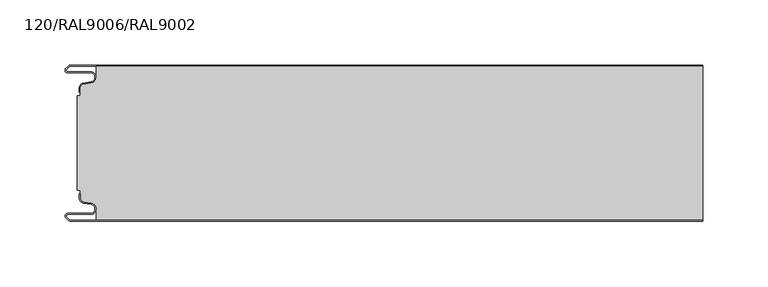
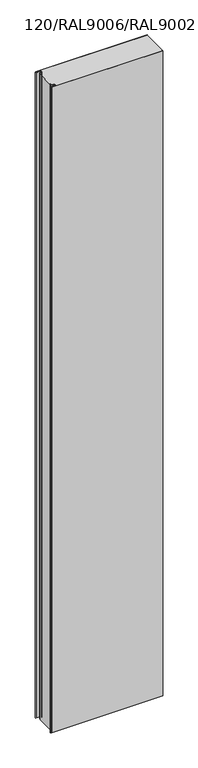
"""IFC4 building model written with IfcOpenShell, lengths in millimetres: plate geometry, TR_C_V_FTV_Panel_cut_GROOVE : 120/RAL9006/RAL9002."""

import ifcopenshell
import ifcopenshell.guid

model = None  # the IFC model being written
_history = None  # IfcOwnerHistory: only IFC2X3 demands one
_inside = {}  # id of a spatial element -> (the spatial element, [elements in it])
_under = {}  # id of a project, library or spatial element -> (it, [spatial elements below it])
_declared = {}  # id of a project -> (the project, [libraries it declares])
_typed = {}  # id of a type object -> (the type object, [elements of that type])
_made_of = {}  # id of a material, layer set ... -> (it, [elements and type objects made of it])


def new_model(schema):
    """Start an empty IFC model of exactly this schema.

    Asked for "IFC4X3", IfcOpenShell would pick the latest addendum, in which some entities
    have other attributes; the version numbers below select the first issue.
    IFC2X3 requires an IfcOwnerHistory on every rooted entity: one is made here for all.
    """
    global model, _history
    if schema == "IFC4X3":
        model = ifcopenshell.file(schema_version=(4, 3, 0, 0))
    else:
        model = ifcopenshell.file(schema=schema)
    _inside.clear()
    _under.clear()
    _declared.clear()
    _typed.clear()
    _made_of.clear()
    _history = None
    if model.schema == "IFC2X3":
        org = make("IfcOrganization", Name="unknown")
        user = make(
            "IfcPersonAndOrganization",
            ThePerson=make("IfcPerson", FamilyName="unknown"),
            TheOrganization=org,
        )
        app = make(
            "IfcApplication",
            ApplicationDeveloper=org,
            Version="unknown",
            ApplicationFullName="unknown",
            ApplicationIdentifier="unknown",
        )
        _history = make(
            "IfcOwnerHistory",
            OwningUser=user,
            OwningApplication=app,
            ChangeAction="ADDED",
            CreationDate=0,
        )
    return model


def make(cls, **values):
    """One entity of the class cls with the attributes given. An attribute that is None is left unset."""
    return model.create_entity(
        cls, **{name: value for name, value in values.items() if value is not None}
    )


def rooted(cls, **values):
    """An entity with a GlobalId (a new one), such as an element, a storey or a relation."""
    return make(cls, GlobalId=ifcopenshell.guid.new(), OwnerHistory=_history, **values)


def si_unit(unit_type, name, prefix=None):
    """IfcSIUnit, for example si_unit("LENGTHUNIT", "METRE", prefix="MILLI")."""
    return make("IfcSIUnit", UnitType=unit_type, Prefix=prefix, Name=name)


def assignment(units):
    """IfcUnitAssignment: the units of a project."""
    return None if units is None else make("IfcUnitAssignment", Units=units)


def point(xyz):
    """IfcCartesianPoint."""
    return None if xyz is None else make("IfcCartesianPoint", Coordinates=xyz)


def direction(xyz):
    """IfcDirection."""
    return None if xyz is None else make("IfcDirection", DirectionRatios=xyz)


def frame(location, z_axis=None, x_axis=None):
    """IfcAxis2Placement3D, a coordinate frame: its origin and axes. An axis left out is left unset."""
    return make(
        "IfcAxis2Placement3D",
        Location=point(location),
        Axis=direction(z_axis),
        RefDirection=direction(x_axis),
    )


def frame_2d(location, x_axis=None):
    """IfcAxis2Placement2D, a coordinate frame in the plane: its origin and x axis."""
    return make(
        "IfcAxis2Placement2D", Location=point(location), RefDirection=direction(x_axis)
    )


def origin():
    """The frame at (0, 0, 0) with its axes left unset."""
    return frame((0.0, 0.0, 0.0))


def origin_with_axes():
    """The frame at (0, 0, 0) with the z axis (0, 0, 1) and the x axis (1, 0, 0) written out."""
    return frame((0.0, 0.0, 0.0), z_axis=(0.0, 0.0, 1.0), x_axis=(1.0, 0.0, 0.0))


def place(relative_to, where):
    """IfcLocalPlacement: puts the frame where relative to a parent placement (None: the world)."""
    return make(
        "IfcLocalPlacement", PlacementRelTo=relative_to, RelativePlacement=where
    )


def context(
    kind, dimensions, precision=None, world=None, true_north=None, identifier=None
):
    """IfcGeometricRepresentationContext, for example the 3D "Model" context."""
    return make(
        "IfcGeometricRepresentationContext",
        ContextIdentifier=identifier,
        ContextType=kind,
        CoordinateSpaceDimension=dimensions,
        Precision=precision,
        WorldCoordinateSystem=world,
        TrueNorth=true_north,
    )


def project(units=None, contexts=None):
    """IfcProject with its units and contexts."""
    return rooted(
        "IfcProject",
        Name="project",
        RepresentationContexts=contexts,
        UnitsInContext=assignment(units),
    )


def spatial(cls, under=None, at=None, **own):
    """A site, building, storey or space (cls), placed at a placement, below another one or the project."""
    s = rooted(cls, ObjectPlacement=at, **own)
    if under is not None:
        _under.setdefault(under.id(), (under, []))[1].append(s)
    return s


def polyline(points):
    """IfcPolyline through the points."""
    return make("IfcPolyline", Points=[point(p) for p in points])


def circle_curve(where, radius):
    """IfcCircle in the frame where."""
    return make("IfcCircle", Position=where, Radius=radius)


def trimmed(basis, trim1, trim2, sense, master):
    """IfcTrimmedCurve: the piece of a basis curve between two trims."""
    return make(
        "IfcTrimmedCurve",
        BasisCurve=basis,
        Trim1=trim1,
        Trim2=trim2,
        SenseAgreement=sense,
        MasterRepresentation=master,
    )


def segment(curve, same_sense, transition):
    """IfcCompositeCurveSegment."""
    return make(
        "IfcCompositeCurveSegment",
        Transition=transition,
        SameSense=same_sense,
        ParentCurve=curve,
    )


def composite_curve(segments, self_intersect=None):
    """IfcCompositeCurve: segments joined end to end."""
    return make("IfcCompositeCurve", Segments=segments, SelfIntersect=self_intersect)


def outline(outer, holes=None, kind="AREA"):
    """IfcArbitraryClosedProfileDef: a profile drawn as a closed curve; with holes, ...WithVoids."""
    if holes is None:
        return make("IfcArbitraryClosedProfileDef", ProfileType=kind, OuterCurve=outer)
    return make(
        "IfcArbitraryProfileDefWithVoids",
        ProfileType=kind,
        OuterCurve=outer,
        InnerCurves=holes,
    )


def extrude(swept, where, along, depth):
    """IfcExtrudedAreaSolid: the profile swept, set in the frame where, extruded along a direction by depth."""
    return make(
        "IfcExtrudedAreaSolid",
        SweptArea=swept,
        Position=where,
        ExtrudedDirection=direction(along),
        Depth=depth,
    )


def shape(context_of_items, identifier, shape_type, items):
    """IfcShapeRepresentation: the items that make up one representation, for example the "Body"."""
    return make(
        "IfcShapeRepresentation",
        ContextOfItems=context_of_items,
        RepresentationIdentifier=identifier,
        RepresentationType=shape_type,
        Items=items,
    )


def source(mapping_origin, context_of_items, identifier, shape_type, items):
    """IfcRepresentationMap: a shape defined once, which mapped items show again and again."""
    return make(
        "IfcRepresentationMap",
        MappingOrigin=mapping_origin,
        MappedRepresentation=shape(context_of_items, identifier, shape_type, items),
    )


def transform(
    local_origin,
    x_axis=None,
    y_axis=None,
    z_axis=None,
    scale=None,
    scale2=None,
    scale3=None,
    uniform=True,
):
    """IfcCartesianTransformationOperator3D, or its non-uniform kind. x_axis, y_axis, z_axis: its Axis1, 2, 3."""
    if uniform:
        return make(
            "IfcCartesianTransformationOperator3D",
            Axis1=direction(x_axis),
            Axis2=direction(y_axis),
            LocalOrigin=point(local_origin),
            Scale=scale,
            Axis3=direction(z_axis),
        )
    return make(
        "IfcCartesianTransformationOperator3DnonUniform",
        Axis1=direction(x_axis),
        Axis2=direction(y_axis),
        LocalOrigin=point(local_origin),
        Scale=scale,
        Axis3=direction(z_axis),
        Scale2=scale2,
        Scale3=scale3,
    )


def mapped(mapping_source, mapping_target):
    """IfcMappedItem: shows the shape of a source again, moved by a transform."""
    return make(
        "IfcMappedItem", MappingSource=mapping_source, MappingTarget=mapping_target
    )


def made_of(thing, what):
    """Note that an element or type object is made of a material, layer set ...; save() writes the relation."""
    if what is not None:
        _made_of.setdefault(what.id(), (what, []))[1].append(thing)
    return thing


def element(
    cls,
    number,
    at=None,
    inside=None,
    cuts=None,
    type_object=None,
    material=None,
    context=None,
    identifier="Body",
    shape_type=None,
    held_by="IfcProductDefinitionShape",
    body=None,
    shapes=None,
    **own,
):
    """One element of the class cls, such as IfcWall. Its Tag is "e" and its number.

    at: its placement. inside: the storey or other place that contains it. cuts: it is an
    opening in that element (IfcRelVoidsElement). A single representation is given by context,
    identifier, shape_type and body (its items); several are given by shapes. held_by: the class
    of the entity that holds the representations. save() writes the other relations.
    """
    e = rooted(cls, Tag="e%d" % number, ObjectPlacement=at, **own)
    if body is not None:
        shapes = [shape(context, identifier, shape_type, body)]
    if shapes is not None:
        e.Representation = make(held_by, Representations=shapes)
    if inside is not None:
        _inside.setdefault(inside.id(), (inside, []))[1].append(e)
    if cuts is not None:
        rooted(
            "IfcRelVoidsElement", RelatingBuildingElement=cuts, RelatedOpeningElement=e
        )
    if type_object is not None:
        _typed.setdefault(type_object.id(), (type_object, []))[1].append(e)
    return made_of(e, material)


def aggregate(whole, parts):
    """IfcRelAggregates: a whole, such as a stair, and the parts it consists of."""
    return rooted("IfcRelAggregates", RelatingObject=whole, RelatedObjects=parts)


def save(model, path):
    """Write the relations noted so far, then the file.

    IfcRelAggregates (storeys below a building ...), IfcRelContainedInSpatialStructure (elements
    in a storey), IfcRelDefinesByType, IfcRelAssociatesMaterial and IfcRelDeclares: one each for
    every whole, place, type object, material and project.
    """
    for whole, parts in _under.values():
        aggregate(whole, parts)
    for where, things in _inside.values():
        rooted(
            "IfcRelContainedInSpatialStructure",
            RelatedElements=things,
            RelatingStructure=where,
        )
    for kind, things in _typed.values():
        rooted("IfcRelDefinesByType", RelatedObjects=things, RelatingType=kind)
    for what, things in _made_of.values():
        rooted("IfcRelAssociatesMaterial", RelatedObjects=things, RelatingMaterial=what)
    for by, libraries in _declared.values():
        rooted("IfcRelDeclares", RelatingContext=by, RelatedDefinitions=libraries)
    model.write(path)


def plate_120_ral9006_ral9002_b1579517(model_context):
    return source(origin(), model_context, "Body", "SweptSolid", [
        extrude(outline(composite_curve([segment(trimmed(circle_curve(frame_2d((-245.4186278, -117.25)), 2.75), [point((-245.4186278, -120.0))], [point((-247.3631715, -119.1945436))], False, "CARTESIAN"), True, "CONTINUOUS"), segment(polyline([(-247.3631715, -119.1945436), (-249.2288569, -117.3288582)]), True, "CONTINUOUS"), segment(trimmed(circle_curve(frame_2d((-247.8499987, -115.95)), 1.95), [point((-249.2288569, -117.3288582))], [point((-247.8499987, -114.0))], False, "CARTESIAN"), True, "CONTINUOUS"), segment(polyline([(-247.8499987, -114.0), (-230.2499987, -114.0)]), True, "CONTINUOUS"), segment(trimmed(circle_curve(frame_2d((-230.2499987, -110.55)), 3.45), [point((-230.2499987, -114.0))], [point((-229.6509125, -107.1524133))], True, "CARTESIAN"), True, "CONTINUOUS"), segment(polyline([(-229.6509125, -107.1524133), (-235.7011793, -106.085588)]), True, "CONTINUOUS"), segment(trimmed(circle_curve(frame_2d((-235.0499987, -102.3925589)), 3.75), [point((-235.7011793, -106.085588))], [point((-238.7999987, -102.3925589))], False, "CARTESIAN"), True, "CONTINUOUS"), segment(polyline([(-238.7999987, -102.3925589), (-238.7999987, -99.0), (-237.9999987, -99.0), (-237.9999987, -102.3925589)]), True, "CONTINUOUS"), segment(trimmed(circle_curve(frame_2d((-235.0499987, -102.3925589)), 2.95), [point((-237.9999987, -102.3925589))], [point((-235.5622608, -105.2977418))], True, "CARTESIAN"), True, "CONTINUOUS"), segment(polyline([(-235.5622608, -105.2977418), (-229.5119939, -106.364567)]), True, "CONTINUOUS"), segment(trimmed(circle_curve(frame_2d((-230.2499987, -110.55)), 4.25), [point((-229.5119939, -106.364567))], [point((-230.2499987, -114.8))], False, "CARTESIAN"), True, "CONTINUOUS"), segment(polyline([(-230.2499987, -114.8), (-247.8499987, -114.8)]), True, "CONTINUOUS"), segment(trimmed(circle_curve(frame_2d((-247.8499987, -115.95)), 1.15), [point((-247.8499987, -114.8))], [point((-248.6631715, -116.7631728))], True, "CARTESIAN"), True, "CONTINUOUS"), segment(polyline([(-248.6631715, -116.7631728), (-246.7974861, -118.6288582)]), True, "CONTINUOUS"), segment(trimmed(circle_curve(frame_2d((-245.4186278, -117.25)), 1.95), [point((-246.7974861, -118.6288582))], [point((-245.4186278, -119.2))], True, "CARTESIAN"), True, "CONTINUOUS"), segment(polyline([(-245.4186278, -119.2), (240.3999998, -119.2), (240.3999998, -120.0), (-245.4186278, -120.0)]), True, "CONTINUOUS")], self_intersect=False)), origin_with_axes(), (0.0, 0.0, 1.0), 2980.0),
        extrude(outline(composite_curve([segment(polyline([(-240.3999987, -23.7), (-237.9999987, -23.7), (-237.9999987, -17.6074411)]), True, "CONTINUOUS"), segment(trimmed(circle_curve(frame_2d((-235.0499987, -17.6074411)), 2.95), [point((-237.9999987, -17.6074411))], [point((-235.5622608, -14.7022582))], False, "CARTESIAN"), True, "CONTINUOUS"), segment(polyline([(-235.5622608, -14.7022582), (-229.5119939, -13.635433)]), True, "CONTINUOUS"), segment(trimmed(circle_curve(frame_2d((-230.2499987, -9.45)), 4.25), [point((-229.5119939, -13.635433))], [point((-225.9999987, -9.45))], True, "CARTESIAN"), True, "CONTINUOUS"), segment(polyline([(-225.9999987, -9.45), (-225.9999987, -0.8), (240.3999998, -0.8), (240.3999998, -119.2), (-225.9999987, -119.2), (-225.9999987, -110.55)]), True, "CONTINUOUS"), segment(trimmed(circle_curve(frame_2d((-230.2499987, -110.55)), 4.25), [point((-225.9999987, -110.55))], [point((-229.5119939, -106.364567))], True, "CARTESIAN"), True, "CONTINUOUS"), segment(polyline([(-229.5119939, -106.364567), (-235.5622608, -105.2977418)]), True, "CONTINUOUS"), segment(trimmed(circle_curve(frame_2d((-235.0499987, -102.3925589)), 2.95), [point((-235.5622608, -105.2977418))], [point((-237.9999987, -102.3925589))], False, "CARTESIAN"), True, "CONTINUOUS"), segment(polyline([(-237.9999987, -102.3925589), (-237.9999987, -96.3), (-240.3999987, -96.3), (-240.3999987, -23.7)]), True, "CONTINUOUS")], self_intersect=False)), origin_with_axes(), (0.0, 0.0, 1.0), 2980.0),
        extrude(outline(composite_curve([segment(trimmed(circle_curve(frame_2d((-245.4186278, -2.75)), 1.95), [point((-245.4186278, -0.8))], [point((-246.7974861, -1.3711418))], True, "CARTESIAN"), True, "CONTINUOUS"), segment(polyline([(-246.7974861, -1.3711418), (-248.6631715, -3.2368272)]), True, "CONTINUOUS"), segment(trimmed(circle_curve(frame_2d((-247.8499987, -4.05)), 1.15), [point((-248.6631715, -3.2368272))], [point((-247.8499987, -5.2))], True, "CARTESIAN"), True, "CONTINUOUS"), segment(polyline([(-247.8499987, -5.2), (-230.2499987, -5.2)]), True, "CONTINUOUS"), segment(trimmed(circle_curve(frame_2d((-230.2499987, -9.45)), 4.25), [point((-230.2499987, -5.2))], [point((-229.5119939, -13.635433))], False, "CARTESIAN"), True, "CONTINUOUS"), segment(polyline([(-229.5119939, -13.635433), (-235.5622608, -14.7022582)]), True, "CONTINUOUS"), segment(trimmed(circle_curve(frame_2d((-235.0499987, -17.6074411)), 2.95), [point((-235.5622608, -14.7022582))], [point((-237.9999987, -17.6074411))], True, "CARTESIAN"), True, "CONTINUOUS"), segment(polyline([(-237.9999987, -17.6074411), (-237.9999987, -21.0), (-238.7999987, -21.0), (-238.7999987, -17.6074411)]), True, "CONTINUOUS"), segment(trimmed(circle_curve(frame_2d((-235.0499987, -17.6074411)), 3.75), [point((-238.7999987, -17.6074411))], [point((-235.7011793, -13.914412))], False, "CARTESIAN"), True, "CONTINUOUS"), segment(polyline([(-235.7011793, -13.914412), (-229.6509125, -12.8475867)]), True, "CONTINUOUS"), segment(trimmed(circle_curve(frame_2d((-230.2499987, -9.45)), 3.45), [point((-229.6509125, -12.8475867))], [point((-230.2499987, -6.0))], True, "CARTESIAN"), True, "CONTINUOUS"), segment(polyline([(-230.2499987, -6.0), (-247.8499987, -6.0)]), True, "CONTINUOUS"), segment(trimmed(circle_curve(frame_2d((-247.8499987, -4.05)), 1.95), [point((-247.8499987, -6.0))], [point((-249.2288569, -2.6711418))], False, "CARTESIAN"), True, "CONTINUOUS"), segment(polyline([(-249.2288569, -2.6711418), (-247.3631715, -0.8054564)]), True, "CONTINUOUS"), segment(trimmed(circle_curve(frame_2d((-245.4186278, -2.75)), 2.75), [point((-247.3631715, -0.8054564))], [point((-245.4186278, 0.0))], False, "CARTESIAN"), True, "CONTINUOUS"), segment(polyline([(-245.4186278, 0.0), (240.3999998, 0.0), (240.3999998, -0.8), (-245.4186278, -0.8)]), True, "CONTINUOUS")], self_intersect=False)), origin_with_axes(), (0.0, 0.0, 1.0), 2980.0),
    ])


if __name__ == "__main__":
    model = new_model("IFC4")
    model_context = context("Model", 3, world=origin())
    ifc_project = project(units=[si_unit("LENGTHUNIT", "METRE", prefix="MILLI")], contexts=[model_context])
    site = spatial("IfcSite", under=ifc_project)
    building = spatial("IfcBuilding", under=site)
    placement = place(None, origin())
    plate_120_ral9006_ral9002_shape = plate_120_ral9006_ral9002_b1579517(model_context)
    element("IfcPlate", 1, ObjectType="TR_C_V_FTV_Panel_cut_GROOVE : 120/RAL9006/RAL9002", at=placement, inside=building, context=model_context, shape_type="MappedRepresentation", body=[
        mapped(plate_120_ral9006_ral9002_shape, transform((0.0, 0.0, 0.0), x_axis=(1.0, 0.0, 0.0), y_axis=(0.0, 1.0, 0.0), z_axis=(0.0, 0.0, 1.0))),
    ])
    save(model, "model.ifc")
